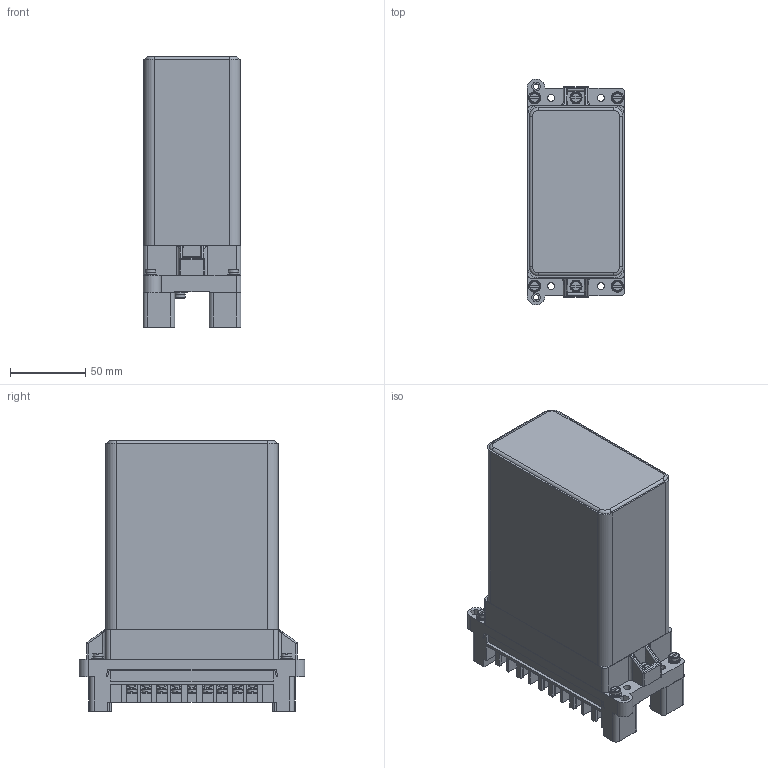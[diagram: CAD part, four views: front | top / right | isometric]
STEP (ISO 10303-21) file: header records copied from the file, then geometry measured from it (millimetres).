
FILE_DESCRIPTION(('STEP AP214'), '1');
FILE_NAME('ÐÂ-03', '', ('UNSPECIFIED'), ('UNSPECIFIED'), 'ASCON STEP Converter 1.3', 'ASCON Math Kernel', '');
FILE_SCHEMA(('AUTOMOTIVE_DESIGN { 1 0 10303 214 3 1 1}'));
Length unit declared in the file: millimetre
Bounding box: 65 x 150 x 179.5 mm (x, y, z)
Volume: 1169813.6 mm3; surface area: 127654.9 mm2
Topology: 1 solids, 1 shells, 6441 faces, 15827 edges, 9542 vertices
Faces by surface type: plane 4861, extrusion 1256, cylinder 210, torus 73, cone 29, bspline 12
Full cylindrical faces by diameter (mm): 3.5 x2, 4 x32, 4.3 x4, 4.5 x25, 5 x2, 5.2 x9, 8 x6, 10 x2
Entity records: 240857 total; most frequent: CARTESIAN_POINT 44865, ORIENTED_EDGE 31310, DIRECTION 25120, EDGE_CURVE 15655, VECTOR 13420, LINE 12164, VERTEX_POINT 9569, EDGE_LOOP 6926
